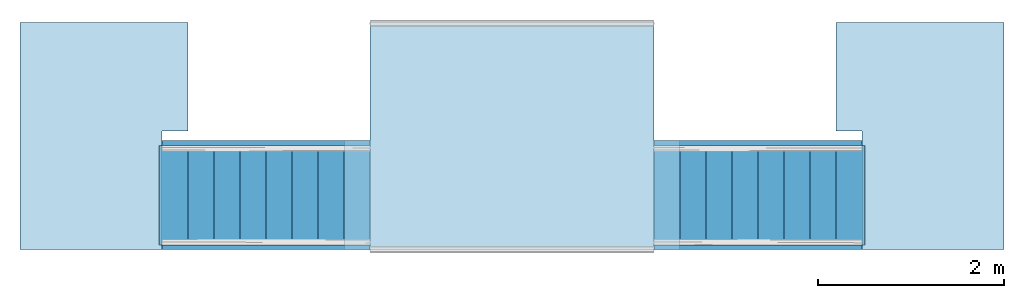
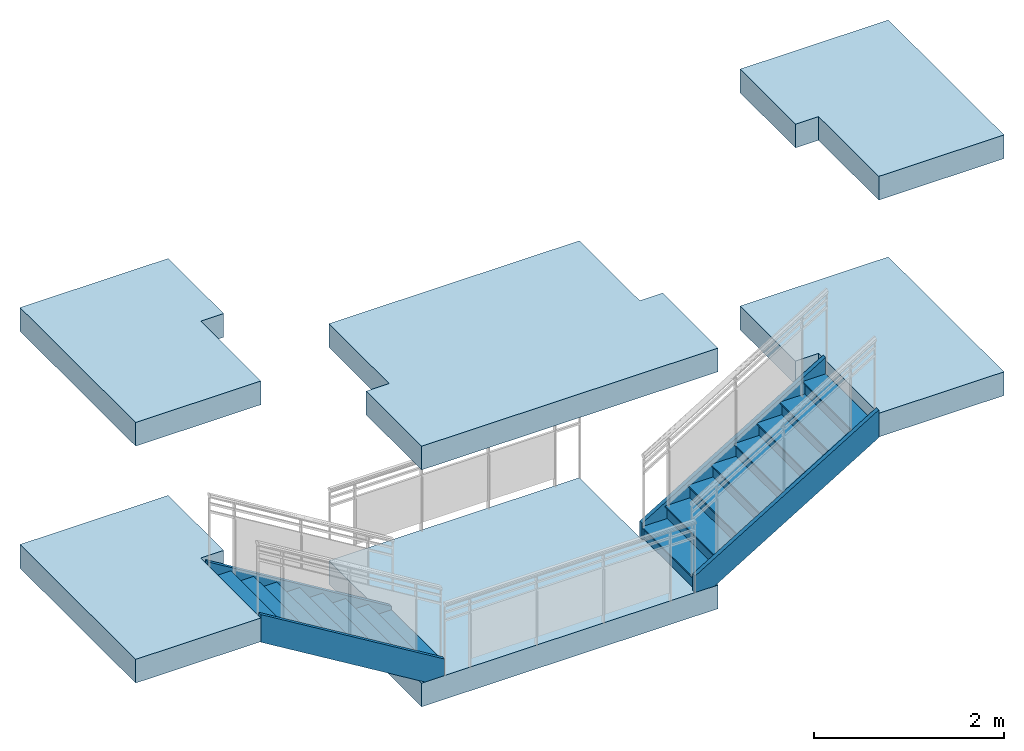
# One storey, part 1 of 4: 6 slabs, 4 members, 2 stair flights, 1 element without a shape of its own.
"""IFC2X3 building model written with IfcOpenShell, lengths in feet."""

from ifc_helpers import new_model, entity, si_unit, converted_unit, derived_unit, direction, frame, frame_2d, origin, origin_2d_with_axis, place, context, subcontext, project, spatial, polyline, rectangle, outline, extrude, material, layer, layer_set, layer_usage, type_object, element, aggregate, save


model = new_model("IFC2X3")

# Units and contexts
model_context = context("Model", 3, precision=0.0001, world=origin(), true_north=direction((6.12303176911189e-17, 1.0)))
body_context = subcontext(model_context, "Body", "Model", "MODEL_VIEW")
ifc_project = project(units=[converted_unit("LENGTHUNIT", "FOOT", entity("IfcRatioMeasure", 0.3048), si_unit("LENGTHUNIT", "METRE"), dimensions=[1, 0, 0, 0, 0, 0, 0]), converted_unit("AREAUNIT", "SQUARE FOOT", entity("IfcRatioMeasure", 0.09290304), si_unit("AREAUNIT", "SQUARE_METRE"), dimensions=[2, 0, 0, 0, 0, 0, 0]), converted_unit("VOLUMEUNIT", "CUBIC FOOT", entity("IfcRatioMeasure", 0.028316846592), si_unit("VOLUMEUNIT", "CUBIC_METRE"), dimensions=[3, 0, 0, 0, 0, 0, 0]), converted_unit("PLANEANGLEUNIT", "DEGREE", entity("IfcRatioMeasure", 0.0174532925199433), si_unit("PLANEANGLEUNIT", "RADIAN"), dimensions=[0, 0, 0, 0, 0, 0, 0]), si_unit("MASSUNIT", "GRAM", prefix="KILO"), derived_unit("MASSDENSITYUNIT", [(si_unit("MASSUNIT", "GRAM", prefix="KILO"), 1), (si_unit("LENGTHUNIT", "METRE"), -3)]), si_unit("TIMEUNIT", "SECOND"), si_unit("FREQUENCYUNIT", "HERTZ"), si_unit("THERMODYNAMICTEMPERATUREUNIT", "DEGREE_CELSIUS"), derived_unit("THERMALTRANSMITTANCEUNIT", [(si_unit("MASSUNIT", "GRAM", prefix="KILO"), 1), (si_unit("THERMODYNAMICTEMPERATUREUNIT", "KELVIN"), -1), (si_unit("TIMEUNIT", "SECOND"), -3)]), derived_unit("VOLUMETRICFLOWRATEUNIT", [(si_unit("LENGTHUNIT", "METRE"), 3), (si_unit("TIMEUNIT", "SECOND"), -1)]), si_unit("ELECTRICCURRENTUNIT", "AMPERE"), si_unit("ELECTRICVOLTAGEUNIT", "VOLT"), si_unit("POWERUNIT", "WATT"), si_unit("FORCEUNIT", "NEWTON"), si_unit("ILLUMINANCEUNIT", "LUX"), si_unit("LUMINOUSFLUXUNIT", "LUMEN"), si_unit("LUMINOUSINTENSITYUNIT", "CANDELA"), derived_unit("USERDEFINED", [(si_unit("MASSUNIT", "GRAM", prefix="KILO"), -1), (si_unit("LENGTHUNIT", "METRE"), -2), (si_unit("TIMEUNIT", "SECOND"), 3), (si_unit("LUMINOUSFLUXUNIT", "LUMEN"), 1)]), derived_unit("LINEARVELOCITYUNIT", [(si_unit("LENGTHUNIT", "METRE"), 1), (si_unit("TIMEUNIT", "SECOND"), -1)]), si_unit("PRESSUREUNIT", "PASCAL"), derived_unit("USERDEFINED", [(si_unit("LENGTHUNIT", "METRE"), -2), (si_unit("MASSUNIT", "GRAM", prefix="KILO"), 1), (si_unit("TIMEUNIT", "SECOND"), -2)])], contexts=[model_context])

# Site, building, storey
site_placement = place(None, origin())
site = spatial("IfcSite", under=ifc_project, at=site_placement, Name="Default", CompositionType="ELEMENT")
building_placement = place(site_placement, origin())
building = spatial("IfcBuilding", under=site, at=building_placement, CompositionType="ELEMENT")
storey_placement = place(building_placement, frame((0.0, 0.0, 35.0)))
storey = spatial("IfcBuildingStorey", under=building, at=storey_placement, Name="L 6", CompositionType="ELEMENT", Elevation=34.9999999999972)

# Stair, members
stair_placement = place(storey_placement, origin())
stair = element("IfcStair", 1, at=stair_placement, inside=storey, Name="Assembled Stair:Stair", ObjectType="Assembled Stair:7\" max riser 11\" tread", ShapeType="NOTDEFINED")
member_type = type_object("IfcMemberType", Name="Stringer:Stringer - 2\" Width", PredefinedType="STRINGER")
member_1_placement = place(stair_placement, origin())
member_1 = element("IfcMember", 2, at=member_1_placement, type_object=member_type, Name="Assembled Stair:Stair:191158 Stringer 1", ObjectType="Assembled Stair:7\" max riser 11\" tread", context=body_context, shape_type="SweptSolid", body=[
    extrude(outline(polyline([(-3.08955742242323, -1.96146201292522), (-2.30843697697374, -1.96146201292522), (4.2437759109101, 2.00957610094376), (4.2437759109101, 3.17889618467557), (-3.08955742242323, -1.26554825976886), (-3.08955742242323, -1.96146201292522)])), frame((-42.0813868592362, -15.3369745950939, 1.96146201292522), z_axis=(0.0, 1.0, 0.0), x_axis=(-1.0, 0.0, 0.0)), (0.0, 0.0, 1.0), 0.166666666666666),
])
member_2_placement = place(stair_placement, origin())
member_2 = element("IfcMember", 3, at=member_2_placement, type_object=member_type, Name="Assembled Stair:Stair:191158 Stringer 2", ObjectType="Assembled Stair:7\" max riser 11\" tread", context=body_context, shape_type="SweptSolid", body=[
    extrude(outline(polyline([(-3.08955742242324, -1.96146201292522), (-2.30843697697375, -1.96146201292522), (4.2437759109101, 2.00957610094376), (4.2437759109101, 3.17889618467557), (-3.08955742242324, -1.26554825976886), (-3.08955742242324, -1.96146201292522)])), frame((-42.0813868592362, -11.6703079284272, 1.96146201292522), z_axis=(0.0, 1.0, 0.0), x_axis=(-1.0, 0.0, 0.0)), (0.0, 0.0, 1.0), 0.166666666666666),
])
member_3_placement = place(stair_placement, origin())
member_3 = element("IfcMember", 4, at=member_3_placement, type_object=member_type, Name="Assembled Stair:Stair:191158 Stringer 3", ObjectType="Assembled Stair:7\" max riser 11\" tread", context=body_context, shape_type="SweptSolid", body=[
    extrude(outline(polyline([(-3.29811864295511, -0.519028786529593), (5.27689530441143, -0.519028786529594), (4.67083469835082, 0.48097121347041), (-2.9907994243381, 0.48097121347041), (-3.65881193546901, 0.0761151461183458), (-3.29811864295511, -0.519028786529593)])), frame((-25.9022720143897, -15.3369745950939, 1.96146201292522), z_axis=(0.0, 1.0, 0.0), x_axis=(0.855197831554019, 0.0, 0.518301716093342)), (0.0, 0.0, 1.0), 0.166666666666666),
])
member_4_placement = place(stair_placement, origin())
member_4 = element("IfcMember", 5, at=member_4_placement, type_object=member_type, Name="Assembled Stair:Stair:191158 Stringer 4", ObjectType="Assembled Stair:7\" max riser 11\" tread", context=body_context, shape_type="SweptSolid", body=[
    extrude(outline(polyline([(-3.29811864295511, -0.519028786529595), (5.27689530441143, -0.519028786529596), (4.67083469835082, 0.480971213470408), (-2.9907994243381, 0.480971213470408), (-3.65881193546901, 0.076115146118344), (-3.29811864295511, -0.519028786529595)])), frame((-25.9022720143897, -11.6703079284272, 1.96146201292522), z_axis=(0.0, 1.0, 0.0), x_axis=(0.855197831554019, 0.0, 0.518301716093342)), (0.0, 0.0, 1.0), 0.166666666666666),
])

# Slabs
ifc_material = material(Name="Concrete, Cast-in-Place gray")
ifc_layer = layer(ifc_material, 1.0)
ifc_layer_set = layer_set([ifc_layer], Name="Floor:Generic - 12\"")
ifc_layer_usage_1 = layer_usage(ifc_layer_set, "AXIS3", "POSITIVE", 0.0)
slab_1_placement = place(storey_placement, origin())
element("IfcSlab", 6, at=slab_1_placement, inside=storey, material=ifc_layer_usage_1, Name="Floor:Generic - 12\"", ObjectType="Floor:Generic - 12\"", PredefinedType="FLOOR", context=body_context, shape_type="SweptSolid", body=[
    extrude(outline(polyline([(-3.91666666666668, -5.91666666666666), (-0.0833333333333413, -5.91666666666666), (-0.0833333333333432, -5.0), (4.08333333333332, -5.0), (4.08333333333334, 5.0), (-0.0833333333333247, 5.0), (-0.0833333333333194, 5.91666666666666), (-3.91666666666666, 5.91666666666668), (-3.91666666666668, -5.91666666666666)])), frame((-33.9918294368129, -11.4203079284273, 0.0), z_axis=(0.0, 0.0, -1.0), x_axis=(0.0, 1.0, 0.0)), (0.0, 0.0, 1.0), 1.0),
])
ifc_layer_usage_2 = layer_usage(ifc_layer_set, "AXIS3", "POSITIVE", 0.0)
slab_2_placement = place(storey_placement, origin())
element("IfcSlab", 7, at=slab_2_placement, inside=storey, material=ifc_layer_usage_2, Name="Floor:Generic - 12\"", ObjectType="Floor:Generic - 12\"", PredefinedType="FLOOR", context=body_context, shape_type="SweptSolid", body=[
    extrude(outline(polyline([(0.111111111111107, -2.27777777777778), (3.94444444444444, -2.27777777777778), (3.94444444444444, 3.63888888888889), (-4.05555555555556, 3.63888888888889), (-4.05555555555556, -1.3611111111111), (0.111111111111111, -1.36111111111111), (0.111111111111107, -2.27777777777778)])), frame((-20.2973849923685, -11.2814190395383, 5.0), z_axis=(0.0, 0.0, -1.0), x_axis=(0.0, 1.0, 0.0)), (0.0, 0.0, 1.0), 1.0),
])
ifc_layer_usage_3 = layer_usage(ifc_layer_set, "AXIS3", "POSITIVE", 0.0)
slab_3_placement = place(storey_placement, origin())
element("IfcSlab", 8, at=slab_3_placement, inside=storey, material=ifc_layer_usage_3, Name="Floor:Generic - 12\"", ObjectType="Floor:Generic - 12\"", PredefinedType="FLOOR", context=body_context, shape_type="SweptSolid", body=[
    extrude(outline(polyline([(-4.05555555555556, -3.63888888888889), (3.94444444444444, -3.63888888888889), (3.94444444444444, 2.27777777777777), (0.111111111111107, 2.27777777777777), (0.111111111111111, 1.3611111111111), (-4.05555555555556, 1.36111111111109), (-4.05555555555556, -3.63888888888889)])), frame((-47.6862738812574, -11.2814190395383, 5.0), z_axis=(0.0, 0.0, -1.0), x_axis=(0.0, 1.0, 0.0)), (0.0, 0.0, 1.0), 1.0),
])
ifc_layer_usage_4 = layer_usage(ifc_layer_set, "AXIS3", "POSITIVE", 0.0)
slab_4_placement = place(storey_placement, origin())
element("IfcSlab", 9, at=slab_4_placement, inside=storey, material=ifc_layer_usage_4, Name="Floor:Generic - 12\"", ObjectType="Floor:Generic - 12\"", PredefinedType="FLOOR", context=body_context, shape_type="SweptSolid", body=[
    extrude(outline(polyline([(-3.91666666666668, -5.91666666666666), (-0.0833333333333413, -5.91666666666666), (-0.0833333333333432, -5.0), (4.08333333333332, -5.0), (4.08333333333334, 5.0), (-0.0833333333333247, 5.0), (-0.0833333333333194, 5.91666666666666), (-3.91666666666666, 5.91666666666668), (-3.91666666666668, -5.91666666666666)])), frame((-33.9918294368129, -11.4203079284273, 10.0), z_axis=(0.0, 0.0, -1.0), x_axis=(0.0, 1.0, 0.0)), (0.0, 0.0, 1.0), 1.0),
])
ifc_layer_usage_5 = layer_usage(ifc_layer_set, "AXIS3", "POSITIVE", 0.0)
slab_5_placement = place(storey_placement, origin())
element("IfcSlab", 10, at=slab_5_placement, inside=storey, material=ifc_layer_usage_5, Name="Floor:Generic - 12\"", ObjectType="Floor:Generic - 12\"", PredefinedType="FLOOR", context=body_context, shape_type="SweptSolid", body=[
    extrude(outline(polyline([(0.111111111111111, -2.27777777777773), (3.94444444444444, -2.27777777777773), (3.94444444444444, 3.63888888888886), (-4.05555555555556, 3.63888888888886), (-4.05555555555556, -1.36111111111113), (0.111111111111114, -1.36111111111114), (0.111111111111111, -2.27777777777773)])), frame((-20.2973849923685, -11.2814190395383, 15.0), z_axis=(0.0, 0.0, -1.0), x_axis=(0.0, 1.0, 0.0)), (0.0, 0.0, 1.0), 1.0),
])
ifc_layer_usage_6 = layer_usage(ifc_layer_set, "AXIS3", "POSITIVE", 0.0)
slab_6_placement = place(storey_placement, origin())
element("IfcSlab", 11, at=slab_6_placement, inside=storey, material=ifc_layer_usage_6, Name="Floor:Generic - 12\"", ObjectType="Floor:Generic - 12\"", PredefinedType="FLOOR", context=body_context, shape_type="SweptSolid", body=[
    extrude(outline(polyline([(-4.05555555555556, -3.6388888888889), (3.94444444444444, -3.6388888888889), (3.94444444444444, 2.2777777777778), (0.111111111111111, 2.2777777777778), (0.111111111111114, 1.36111111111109), (-4.05555555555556, 1.36111111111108), (-4.05555555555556, -3.6388888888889)])), frame((-47.6862738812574, -11.2814190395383, 15.0), z_axis=(0.0, 0.0, -1.0), x_axis=(0.0, 1.0, 0.0)), (0.0, 0.0, 1.0), 1.0),
])

# Stair flight
stair_flight_1_placement = place(stair_placement, origin())
stair_flight_1 = element("IfcStairFlight", 12, at=stair_flight_1_placement, Name="Assembled Stair:Stair:191158 Run 1", ObjectType="Assembled Stair:7\" max riser 11\" tread", NumberOfRiser=9, NumberOfTreads=8, RiserHeight=0.555555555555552, TreadLength=0.916666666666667, context=body_context, shape_type="SweptSolid", body=[
    extrude(outline(polyline([(-0.0902777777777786, -0.361111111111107), (-0.0277777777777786, -0.361111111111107), (0.0555555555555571, -0.277777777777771), (0.0763888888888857, -0.277777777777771), (0.0763888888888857, 0.638888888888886), (-0.0902777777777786, 0.638888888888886), (-0.0902777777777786, -0.361111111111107)])), frame((-39.352940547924, -15.1703079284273, 0.465277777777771), z_axis=(0.0, 1.0, 0.0), x_axis=(0.0, 0.0, -1.0)), (0.0, 0.0, 1.0), 3.5),
    extrude(rectangle(XDim=3.5, YDim=0.0208333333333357, at=frame_2d((0.0, -3.5527136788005e-15), x_axis=(1.0, 0.0))), frame((-39.0855794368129, -13.4203079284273, 0.0), z_axis=(0.0, 0.0, 1.0), x_axis=(0.0, -1.0, 0.0)), (0.0, 0.0, 1.0), 0.388888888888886),
    extrude(rectangle(XDim=3.5, YDim=0.0208333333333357, at=origin_2d_with_axis()), frame((-40.0022461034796, -13.4203079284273, 0.388888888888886), z_axis=(0.0, 0.0, 1.0), x_axis=(0.0, -1.0, 0.0)), (0.0, 0.0, 1.0), 0.555555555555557),
    extrude(outline(polyline([(-0.0902777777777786, -0.361111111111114), (-0.0277777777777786, -0.361111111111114), (0.05555555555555, -0.277777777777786), (0.0763888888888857, -0.277777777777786), (0.0763888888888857, 0.638888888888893), (-0.0902777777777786, 0.638888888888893), (-0.0902777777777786, -0.361111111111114)])), frame((-40.2696072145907, -15.1703079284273, 1.02083333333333), z_axis=(0.0, 1.0, 0.0), x_axis=(0.0, 0.0, -1.0)), (0.0, 0.0, 1.0), 3.5),
    extrude(rectangle(XDim=3.5, YDim=0.0208333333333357, at=origin_2d_with_axis()), frame((-40.9189127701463, -13.4203079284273, 0.944444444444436), z_axis=(0.0, 0.0, 1.0), x_axis=(0.0, -1.0, 0.0)), (0.0, 0.0, 1.0), 0.555555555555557),
    extrude(outline(polyline([(-0.0902777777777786, -0.361111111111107), (-0.0277777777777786, -0.361111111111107), (0.05555555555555, -0.277777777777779), (0.0763888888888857, -0.277777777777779), (0.0763888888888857, 0.6388888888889), (-0.0902777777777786, 0.6388888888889), (-0.0902777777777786, -0.361111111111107)])), frame((-41.1862738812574, -15.1703079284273, 1.57638888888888), z_axis=(0.0, 1.0, 0.0), x_axis=(0.0, 0.0, -1.0)), (0.0, 0.0, 1.0), 3.5),
    extrude(rectangle(XDim=3.5, YDim=0.0208333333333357, at=origin_2d_with_axis()), frame((-41.8355794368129, -13.4203079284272, 1.49999999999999), z_axis=(0.0, 0.0, 1.0), x_axis=(0.0, -1.0, 0.0)), (0.0, 0.0, 1.0), 0.555555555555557),
    extrude(outline(polyline([(-0.0902777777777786, -0.361111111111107), (-0.0277777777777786, -0.361111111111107), (0.05555555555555, -0.277777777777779), (0.0763888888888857, -0.277777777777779), (0.0763888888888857, 0.6388888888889), (-0.0902777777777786, 0.6388888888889), (-0.0902777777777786, -0.361111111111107)])), frame((-42.102940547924, -15.1703079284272, 2.13194444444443), z_axis=(0.0, 1.0, 0.0), x_axis=(0.0, 0.0, -1.0)), (0.0, 0.0, 1.0), 3.5),
    extrude(rectangle(XDim=3.5, YDim=0.0208333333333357, at=origin_2d_with_axis()), frame((-42.7522461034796, -13.4203079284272, 2.05555555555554), z_axis=(0.0, 0.0, 1.0), x_axis=(0.0, -1.0, 0.0)), (0.0, 0.0, 1.0), 0.555555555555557),
    extrude(outline(polyline([(-0.0902777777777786, -0.361111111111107), (-0.0277777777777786, -0.361111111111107), (0.05555555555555, -0.277777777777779), (0.0763888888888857, -0.277777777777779), (0.0763888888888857, 0.6388888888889), (-0.0902777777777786, 0.6388888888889), (-0.0902777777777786, -0.361111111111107)])), frame((-43.0196072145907, -15.1703079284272, 2.68749999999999), z_axis=(0.0, 1.0, 0.0), x_axis=(0.0, 0.0, -1.0)), (0.0, 0.0, 1.0), 3.5),
    extrude(rectangle(XDim=3.5, YDim=0.0208333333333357, at=frame_2d((0.0, -7.105427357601e-15), x_axis=(1.0, 0.0))), frame((-43.6689127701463, -13.4203079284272, 2.61111111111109), z_axis=(0.0, 0.0, 1.0), x_axis=(0.0, -1.0, 0.0)), (0.0, 0.0, 1.0), 0.555555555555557),
    extrude(outline(polyline([(-0.0902777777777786, -0.361111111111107), (-0.0277777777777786, -0.361111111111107), (0.05555555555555, -0.277777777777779), (0.0763888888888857, -0.277777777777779), (0.0763888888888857, 0.6388888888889), (-0.0902777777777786, 0.6388888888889), (-0.0902777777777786, -0.361111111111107)])), frame((-43.9362738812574, -15.1703079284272, 3.24305555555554), z_axis=(0.0, 1.0, 0.0), x_axis=(0.0, 0.0, -1.0)), (0.0, 0.0, 1.0), 3.5),
    extrude(rectangle(XDim=3.5, YDim=0.0208333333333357, at=origin_2d_with_axis()), frame((-44.5855794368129, -13.4203079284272, 3.16666666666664), z_axis=(0.0, 0.0, 1.0), x_axis=(0.0, -1.0, 0.0)), (0.0, 0.0, 1.0), 0.555555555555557),
    extrude(outline(polyline([(-0.0902777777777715, -0.361111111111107), (-0.0277777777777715, -0.361111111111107), (0.0555555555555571, -0.277777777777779), (0.0763888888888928, -0.277777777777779), (0.0763888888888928, 0.6388888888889), (-0.0902777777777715, 0.6388888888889), (-0.0902777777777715, -0.361111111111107)])), frame((-44.852940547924, -15.1703079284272, 3.79861111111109), z_axis=(0.0, 1.0, 0.0), x_axis=(0.0, 0.0, -1.0)), (0.0, 0.0, 1.0), 3.5),
    extrude(rectangle(XDim=3.5, YDim=0.0208333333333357, at=origin_2d_with_axis()), frame((-45.5022461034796, -13.4203079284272, 3.7222222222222), z_axis=(0.0, 0.0, 1.0), x_axis=(0.0, -1.0, 0.0)), (0.0, 0.0, 1.0), 0.555555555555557),
    extrude(rectangle(XDim=3.5, YDim=0.0208333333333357, at=frame_2d((0.0, -3.5527136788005e-15), x_axis=(1.0, 0.0))), frame((-46.4189127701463, -13.4203079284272, 4.27777777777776), z_axis=(0.0, 0.0, 1.0), x_axis=(0.0, -1.0, 0.0)), (0.0, 0.0, 1.0), 0.55555555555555),
    extrude(outline(polyline([(-0.0902777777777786, -0.361111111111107), (-0.0277777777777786, -0.361111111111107), (0.05555555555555, -0.277777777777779), (0.0763888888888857, -0.277777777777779), (0.0763888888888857, 0.6388888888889), (-0.0902777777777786, 0.6388888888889), (-0.0902777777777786, -0.361111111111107)])), frame((-45.7696072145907, -15.1703079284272, 4.35416666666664), z_axis=(0.0, 1.0, 0.0), x_axis=(0.0, 0.0, -1.0)), (0.0, 0.0, 1.0), 3.5),
])

stair_flight_2_placement = place(stair_placement, origin())
stair_flight_2 = element("IfcStairFlight", 13, at=stair_flight_2_placement, Name="Assembled Stair:Stair:191158 Run 2", ObjectType="Assembled Stair:7\" max riser 11\" tread", NumberOfRiser=9, NumberOfTreads=8, RiserHeight=0.555555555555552, TreadLength=0.916666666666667, context=body_context, shape_type="SweptSolid", body=[
    extrude(outline(polyline([(-0.0902777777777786, -0.638888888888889), (0.0763888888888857, -0.638888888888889), (0.0763888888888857, 0.277777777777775), (0.0555555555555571, 0.277777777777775), (-0.0277777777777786, 0.361111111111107), (-0.0902777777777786, 0.361111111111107), (-0.0902777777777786, -0.638888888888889)])), frame((-28.6307183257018, -15.1703079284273, 0.465277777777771), z_axis=(0.0, 1.0, 0.0), x_axis=(0.0, 0.0, -1.0)), (0.0, 0.0, 1.0), 3.5),
    extrude(rectangle(XDim=3.5, YDim=0.0208333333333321, at=frame_2d((0.0, 1.77635683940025e-15), x_axis=(1.0, 0.0))), frame((-28.8980794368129, -13.4203079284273, 0.0), z_axis=(0.0, 0.0, 1.0), x_axis=(0.0, 1.0, 0.0)), (0.0, 0.0, 1.0), 0.388888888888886),
    extrude(rectangle(XDim=3.5, YDim=0.0208333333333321, at=frame_2d((0.0, -1.77635683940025e-15), x_axis=(1.0, 0.0))), frame((-27.9814127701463, -13.4203079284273, 0.388888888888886), z_axis=(0.0, 0.0, 1.0), x_axis=(0.0, 1.0, 0.0)), (0.0, 0.0, 1.0), 0.555555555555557),
    extrude(outline(polyline([(-0.0902777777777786, -0.638888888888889), (0.0763888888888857, -0.638888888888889), (0.0763888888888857, 0.277777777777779), (0.0555555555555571, 0.277777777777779), (-0.0277777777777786, 0.361111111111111), (-0.0902777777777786, 0.361111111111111), (-0.0902777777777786, -0.638888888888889)])), frame((-27.7140516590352, -15.1703079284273, 1.02083333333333), z_axis=(0.0, 1.0, 0.0), x_axis=(0.0, 0.0, -1.0)), (0.0, 0.0, 1.0), 3.5),
    extrude(rectangle(XDim=3.5, YDim=0.0208333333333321, at=frame_2d((0.0, -1.77635683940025e-15), x_axis=(1.0, 0.0))), frame((-27.0647461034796, -13.4203079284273, 0.944444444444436), z_axis=(0.0, 0.0, 1.0), x_axis=(0.0, 1.0, 0.0)), (0.0, 0.0, 1.0), 0.555555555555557),
    extrude(outline(polyline([(-0.0902777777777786, -0.638888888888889), (0.0763888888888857, -0.638888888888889), (0.0763888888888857, 0.277777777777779), (0.0555555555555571, 0.277777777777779), (-0.0277777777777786, 0.361111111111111), (-0.0902777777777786, 0.361111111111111), (-0.0902777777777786, -0.638888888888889)])), frame((-26.7973849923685, -15.1703079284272, 1.57638888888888), z_axis=(0.0, 1.0, 0.0), x_axis=(0.0, 0.0, -1.0)), (0.0, 0.0, 1.0), 3.5),
    extrude(rectangle(XDim=3.5, YDim=0.0208333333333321, at=frame_2d((0.0, 1.77635683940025e-15), x_axis=(1.0, 0.0))), frame((-26.1480794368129, -13.4203079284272, 1.49999999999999), z_axis=(0.0, 0.0, 1.0), x_axis=(0.0, 1.0, 0.0)), (0.0, 0.0, 1.0), 0.555555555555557),
    extrude(outline(polyline([(-0.0902777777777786, -0.638888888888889), (0.0763888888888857, -0.638888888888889), (0.0763888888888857, 0.277777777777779), (0.0555555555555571, 0.277777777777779), (-0.0277777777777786, 0.361111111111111), (-0.0902777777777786, 0.361111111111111), (-0.0902777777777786, -0.638888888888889)])), frame((-25.8807183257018, -15.1703079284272, 2.13194444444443), z_axis=(0.0, 1.0, 0.0), x_axis=(0.0, 0.0, -1.0)), (0.0, 0.0, 1.0), 3.5),
    extrude(rectangle(XDim=3.5, YDim=0.0208333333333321, at=frame_2d((0.0, -1.77635683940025e-15), x_axis=(1.0, 0.0))), frame((-25.2314127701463, -13.4203079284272, 2.05555555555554), z_axis=(0.0, 0.0, 1.0), x_axis=(0.0, 1.0, 0.0)), (0.0, 0.0, 1.0), 0.555555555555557),
    extrude(outline(polyline([(-0.0902777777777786, -0.638888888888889), (0.0763888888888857, -0.638888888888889), (0.0763888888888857, 0.277777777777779), (0.0555555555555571, 0.277777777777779), (-0.0277777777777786, 0.361111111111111), (-0.0902777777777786, 0.361111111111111), (-0.0902777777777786, -0.638888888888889)])), frame((-24.9640516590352, -15.1703079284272, 2.68749999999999), z_axis=(0.0, 1.0, 0.0), x_axis=(0.0, 0.0, -1.0)), (0.0, 0.0, 1.0), 3.5),
    extrude(rectangle(XDim=3.5, YDim=0.0208333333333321, at=frame_2d((0.0, -1.77635683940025e-15), x_axis=(1.0, 0.0))), frame((-24.3147461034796, -13.4203079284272, 2.61111111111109), z_axis=(0.0, 0.0, 1.0), x_axis=(0.0, 1.0, 0.0)), (0.0, 0.0, 1.0), 0.555555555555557),
    extrude(outline(polyline([(-0.0902777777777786, -0.638888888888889), (0.0763888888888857, -0.638888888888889), (0.0763888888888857, 0.277777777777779), (0.0555555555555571, 0.277777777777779), (-0.0277777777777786, 0.361111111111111), (-0.0902777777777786, 0.361111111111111), (-0.0902777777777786, -0.638888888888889)])), frame((-24.0473849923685, -15.1703079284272, 3.24305555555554), z_axis=(0.0, 1.0, 0.0), x_axis=(0.0, 0.0, -1.0)), (0.0, 0.0, 1.0), 3.5),
    extrude(rectangle(XDim=3.5, YDim=0.0208333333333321, at=frame_2d((0.0, 1.77635683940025e-15), x_axis=(1.0, 0.0))), frame((-23.3980794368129, -13.4203079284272, 3.16666666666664), z_axis=(0.0, 0.0, 1.0), x_axis=(0.0, 1.0, 0.0)), (0.0, 0.0, 1.0), 0.555555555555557),
    extrude(outline(polyline([(-0.0902777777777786, -0.638888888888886), (0.0763888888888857, -0.638888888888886), (0.0763888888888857, 0.277777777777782), (0.0555555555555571, 0.277777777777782), (-0.0277777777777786, 0.361111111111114), (-0.0902777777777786, 0.361111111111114), (-0.0902777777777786, -0.638888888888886)])), frame((-23.1307183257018, -15.1703079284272, 3.79861111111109), z_axis=(0.0, 1.0, 0.0), x_axis=(0.0, 0.0, -1.0)), (0.0, 0.0, 1.0), 3.5),
    extrude(rectangle(XDim=3.5, YDim=0.0208333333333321, at=frame_2d((0.0, -1.77635683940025e-15), x_axis=(1.0, 0.0))), frame((-22.4814127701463, -13.4203079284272, 3.7222222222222), z_axis=(0.0, 0.0, 1.0), x_axis=(0.0, 1.0, 0.0)), (0.0, 0.0, 1.0), 0.555555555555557),
    extrude(rectangle(XDim=3.5, YDim=0.0208333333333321, at=frame_2d((0.0, 1.77635683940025e-15), x_axis=(1.0, 0.0))), frame((-21.5647461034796, -13.4203079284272, 4.27777777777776), z_axis=(0.0, 0.0, 1.0), x_axis=(0.0, 1.0, 0.0)), (0.0, 0.0, 1.0), 0.55555555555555),
    extrude(outline(polyline([(-0.0902777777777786, -0.638888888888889), (0.0763888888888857, -0.638888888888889), (0.0763888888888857, 0.277777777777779), (0.0555555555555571, 0.277777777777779), (-0.0277777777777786, 0.361111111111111), (-0.0902777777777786, 0.361111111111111), (-0.0902777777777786, -0.638888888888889)])), frame((-22.2140516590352, -15.1703079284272, 4.35416666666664), z_axis=(0.0, 1.0, 0.0), x_axis=(0.0, 0.0, -1.0)), (0.0, 0.0, 1.0), 3.5),
])

aggregate(stair, [stair_flight_1, stair_flight_2, member_1, member_2, member_3, member_4])

save(model, "model.ifc")
